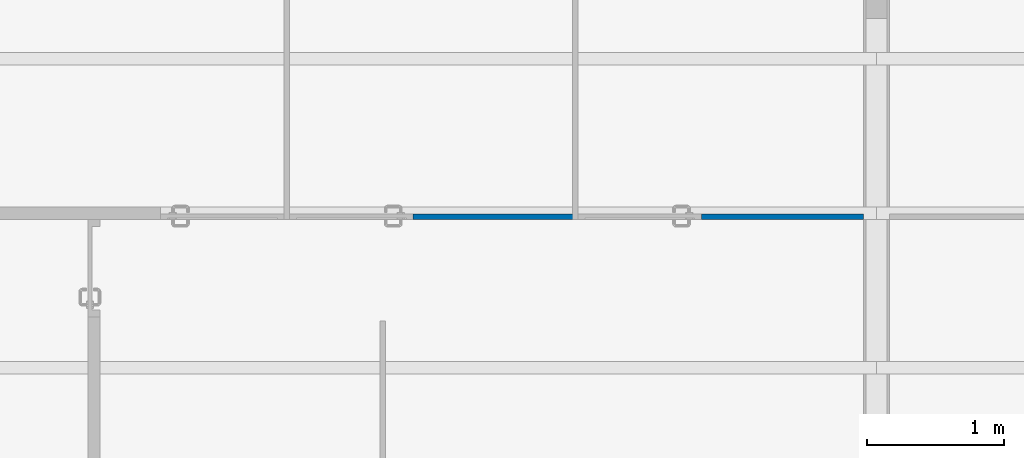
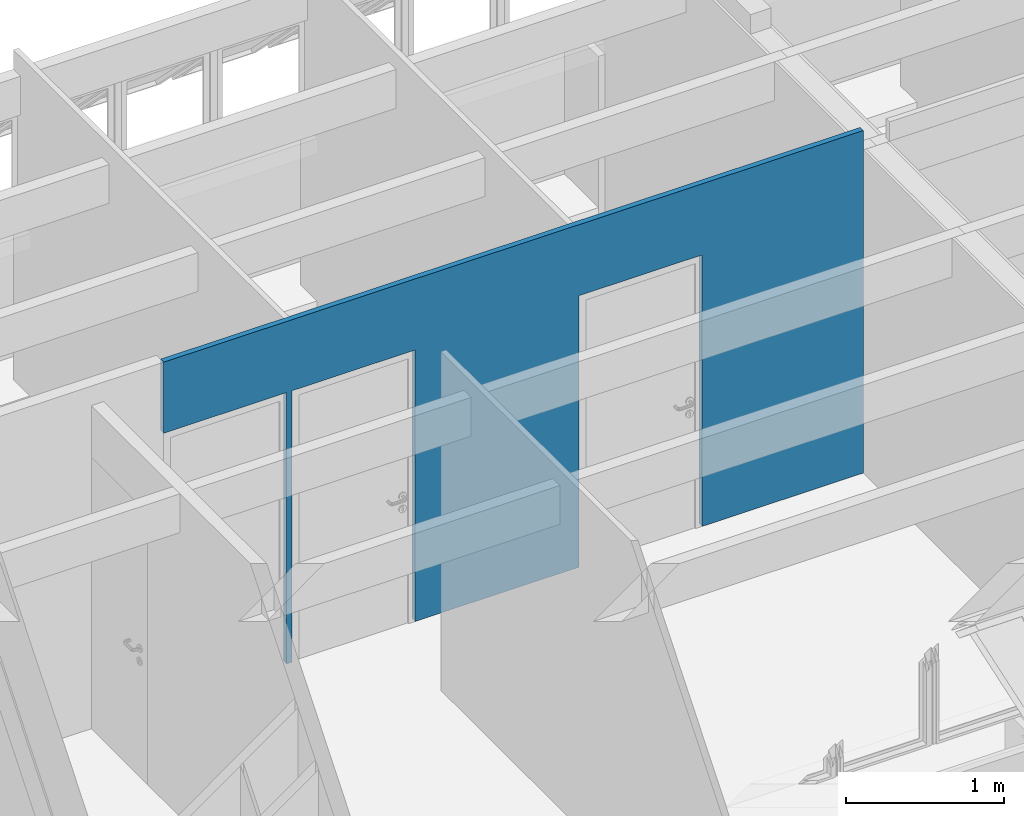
# One storey, part 34 of 40: 1 wall, 3 openings.
"""IFC4 building model written with IfcOpenShell, lengths in millimetres."""

from ifc_helpers import new_model, entity, si_unit, converted_unit, derived_unit, direction, frame, origin_with_axes, origin_2d_with_axis, place, context, subcontext, project, spatial, line, indexed_curve, rectangle, outline, extrude, material, layer, layer_set, layer_usage, type_object, element, save


model = new_model("IFC4")

# Units and contexts
model_context = context("Model", 3, precision=0.01, world=origin_with_axes(), true_north=direction((0.0, 1.0)))
body_context = subcontext(model_context, "Body", "Model", "MODEL_VIEW")
ifc_project = project(units=[si_unit("LENGTHUNIT", "METRE", prefix="MILLI"), si_unit("AREAUNIT", "SQUARE_METRE"), si_unit("VOLUMEUNIT", "CUBIC_METRE"), converted_unit("PLANEANGLEUNIT", "DEGREE", entity("IfcPlaneAngleMeasure", 0.0174532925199), si_unit("PLANEANGLEUNIT", "RADIAN"), dimensions=[0, 0, 0, 0, 0, 0, 0]), converted_unit("TIMEUNIT", "Year", entity("IfcTimeMeasure", 31556926.0), si_unit("TIMEUNIT", "SECOND"), dimensions=[0, 0, 1, 0, 0, 0, 0]), si_unit("MASSUNIT", "GRAM", prefix="KILO"), si_unit("THERMODYNAMICTEMPERATUREUNIT", "DEGREE_CELSIUS"), si_unit("LUMINOUSINTENSITYUNIT", "LUMEN"), si_unit("ENERGYUNIT", "JOULE", prefix="MEGA"), derived_unit("THERMALCONDUCTANCEUNIT", [(si_unit("POWERUNIT", "WATT"), 1), (si_unit("LENGTHUNIT", "METRE"), -1), (si_unit("THERMODYNAMICTEMPERATUREUNIT", "KELVIN"), -1)]), derived_unit("SPECIFICHEATCAPACITYUNIT", [(si_unit("ENERGYUNIT", "JOULE"), 1), (si_unit("MASSUNIT", "GRAM", prefix="KILO"), -1), (si_unit("THERMODYNAMICTEMPERATUREUNIT", "KELVIN"), -1)]), derived_unit("MASSDENSITYUNIT", [(si_unit("MASSUNIT", "GRAM", prefix="KILO"), 1), (si_unit("VOLUMEUNIT", "CUBIC_METRE"), -1)])], contexts=[model_context])

# Site, building, storey
site_placement = place(None, origin_with_axes())
site = spatial("IfcSite", under=ifc_project, at=site_placement, Name="Local", CompositionType="ELEMENT")
building_placement = place(site_placement, origin_with_axes())
building = spatial("IfcBuilding", under=site, at=building_placement, Name="Construção", CompositionType="ELEMENT")
storey_placement = place(building_placement, origin_with_axes())
storey = spatial("IfcBuildingStorey", under=building, at=storey_placement, Name="Primeiro Pavimento", CompositionType="ELEMENT", Elevation=0.0)

# Wall, openings
ifc_material = material(Name="GENÉRICO - VEDAÇÃO EXTERNA")
ifc_layer = layer(ifc_material, 40.0, ventilated="UNKNOWN", Name="GENÉRICO - VEDAÇÃO EXTERNA")
ifc_layer_set = layer_set([ifc_layer], Name="GENÉRICO - VEDAÇÃO EXTERNA 40")
ifc_layer_usage = layer_usage(ifc_layer_set, "AXIS2", "POSITIVE", 0.0)
wall_type = type_object("IfcWallType", Name="GENÉRICO - VEDAÇÃO EXTERNA 40", PredefinedType="NOTDEFINED")
wall_placement = place(storey_placement, frame((2170.0, 22394.7804333, 0.0), z_axis=(0.0, 0.0, 1.0), x_axis=(0.99999999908, 4.28841203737e-05, 0.0)))
wall = element("IfcWall", 1, at=wall_placement, inside=storey, type_object=wall_type, material=ifc_layer_usage, Name="APTO3-PAREDE-006", PredefinedType="NOTDEFINED", context=body_context, shape_type="SweptSolid", body=[
    extrude(outline(indexed_curve([(0.0, 0.0), (5120.00000471, 0.0), (5120.00000471, 40.0), (0.000857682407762, 40.0)], segments=[line(1, 2, 3, 4, 1)])), origin_with_axes(), (0.0, 0.0, 1.0), 2650.0),
])
opening_1_placement = place(wall_placement, frame((1390.00000471, 0.0, 0.0), z_axis=(0.0, 0.0, 1.0), x_axis=(1.0, 0.0, 0.0)))
element("IfcOpeningElement", 2, at=opening_1_placement, cuts=wall, Name="APTO3-PORTA-002", context=body_context, shape_type="SweptSolid", body=[
    extrude(rectangle(XDim=900.0, YDim=2100.0, at=origin_2d_with_axis()), frame((0.0, 40.0, 1050.0), z_axis=(0.0, 1.0, 0.0), x_axis=(-1.0, 0.0, 0.0)), (0.0, 0.0, -1.0), 120.0),
])
opening_2_placement = place(wall_placement, frame((450.000004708, 0.0, 0.0), z_axis=(0.0, 0.0, 1.0), x_axis=(1.0, 0.0, 0.0)))
element("IfcOpeningElement", 3, at=opening_2_placement, cuts=wall, Name="APTO3-PORTA-001", context=body_context, shape_type="SweptSolid", body=[
    extrude(rectangle(XDim=900.0, YDim=2100.0, at=origin_2d_with_axis()), frame((0.0, 40.0, 1050.0), z_axis=(0.0, -1.0, 0.0), x_axis=(1.0, 0.0, 0.0)), (0.0, 0.0, 1.0), 120.0),
])
opening_3_placement = place(wall_placement, frame((3490.00000471, 0.0, 0.0), z_axis=(0.0, 0.0, 1.0), x_axis=(1.0, 0.0, 0.0)))
element("IfcOpeningElement", 4, at=opening_3_placement, cuts=wall, Name="APTO3-PORTA-000", context=body_context, shape_type="SweptSolid", body=[
    extrude(rectangle(XDim=900.0, YDim=2100.0, at=origin_2d_with_axis()), frame((0.0, 40.0, 1050.0), z_axis=(0.0, 1.0, 0.0), x_axis=(-1.0, 0.0, 0.0)), (0.0, 0.0, -1.0), 120.0),
])

save(model, "model.ifc")
